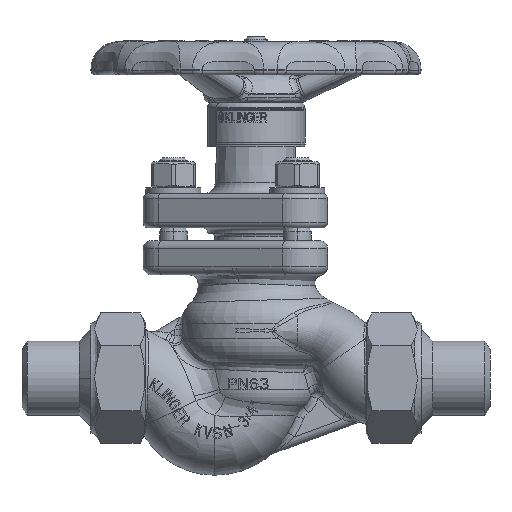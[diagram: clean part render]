
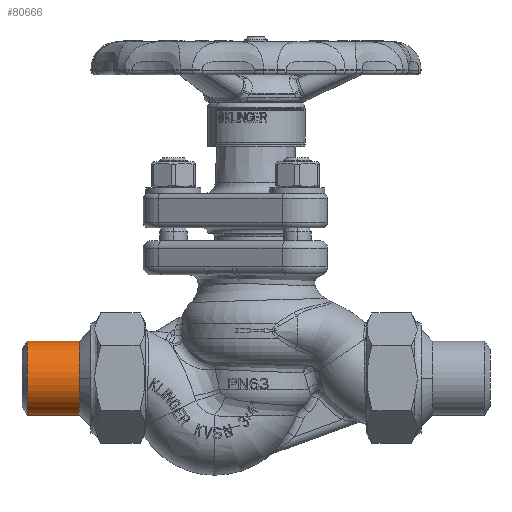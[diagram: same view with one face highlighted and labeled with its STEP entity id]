
A CAD part, front view. The second image highlights one B-rep face of the part: STEP entity #80666.
In plain terms, the highlighted cylindrical face has radius 13.45 mm (diameter 26.9 mm), a partial arc.
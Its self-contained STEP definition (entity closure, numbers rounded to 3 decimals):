
#24470=CARTESIAN_POINT('',(-64.243,0.,0.));
#24471=DIRECTION('',(1.,0.,0.));
#24472=DIRECTION('',(0.,-1.,0.));
#24473=AXIS2_PLACEMENT_3D('',#24470,#24471,#24472);
#24475=CARTESIAN_POINT('',(-83.152,0.,0.));
#24476=DIRECTION('',(1.,0.,0.));
#24477=DIRECTION('',(0.,0.,1.));
#24478=AXIS2_PLACEMENT_3D('',#24475,#24476,#24477);
#24480=CARTESIAN_POINT('',(-64.243,0.,0.));
#24481=DIRECTION('',(1.,0.,0.));
#24482=DIRECTION('',(0.,0.,1.));
#24483=AXIS2_PLACEMENT_3D('',#24480,#24481,#24482);
#24495=DIRECTION('',(1.,0.,0.));
#24496=VECTOR('',#24495,18.91);
#24497=CARTESIAN_POINT('',(-83.152,0.,13.45));
#24498=LINE('',#24497,#24496);
#24504=DIRECTION('',(1.,0.,0.));
#24505=VECTOR('',#24504,18.91);
#24506=CARTESIAN_POINT('',(-83.152,0.,-13.45));
#24507=LINE('',#24506,#24505);
#34463=CARTESIAN_POINT('',(-83.152,0.,13.45));
#34464=CARTESIAN_POINT('',(-83.152,0.,-13.45));
#34465=VERTEX_POINT('',#34463);
#34466=VERTEX_POINT('',#34464);
#34487=CARTESIAN_POINT('',(-64.243,-13.45,0.));
#34488=CARTESIAN_POINT('',(-64.243,0.,-13.45));
#34489=VERTEX_POINT('',#34487);
#34490=VERTEX_POINT('',#34488);
#34491=CARTESIAN_POINT('',(-64.243,0.,13.45));
#34492=VERTEX_POINT('',#34491);
#80651=CARTESIAN_POINT('',(-87.05,0.,0.));
#80652=DIRECTION('',(1.,0.,0.));
#80653=DIRECTION('',(0.,0.,1.));
#80654=AXIS2_PLACEMENT_3D('',#80651,#80652,#80653);
#80655=CYLINDRICAL_SURFACE('',#80654,13.45);
#80656=ORIENTED_EDGE('',*,*,#80629,.T.);
#80658=ORIENTED_EDGE('',*,*,#80657,.F.);
#80660=ORIENTED_EDGE('',*,*,#80659,.F.);
#80662=ORIENTED_EDGE('',*,*,#80661,.T.);
#80663=ORIENTED_EDGE('',*,*,#80643,.T.);
#80664=EDGE_LOOP('',(#80656,#80658,#80660,#80662,#80663));
#80665=FACE_OUTER_BOUND('',#80664,.F.);
#80666=ADVANCED_FACE('',(#80665),#80655,.T.);
#24474=CIRCLE('',#24473,13.45);
#24479=CIRCLE('',#24478,13.45);
#24484=CIRCLE('',#24483,13.45);
#80629=EDGE_CURVE('',#34489,#34490,#24474,.T.);
#80643=EDGE_CURVE('',#34492,#34489,#24484,.T.);
#80657=EDGE_CURVE('',#34466,#34490,#24507,.T.);
#80659=EDGE_CURVE('',#34465,#34466,#24479,.T.);
#80661=EDGE_CURVE('',#34465,#34492,#24498,.T.);
